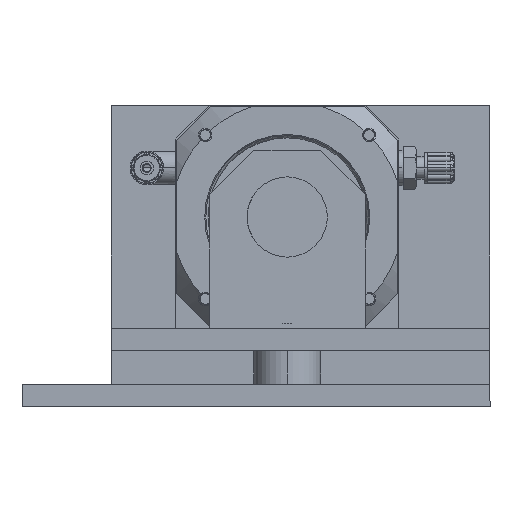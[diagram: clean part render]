
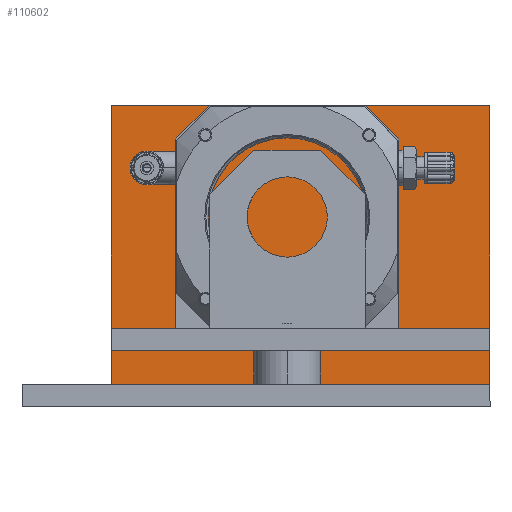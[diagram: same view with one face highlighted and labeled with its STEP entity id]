
A CAD part, front view. The second image highlights one B-rep face of the part: STEP entity #110602.
In plain terms, the highlighted planar face has unit normal (0, -1, 0).
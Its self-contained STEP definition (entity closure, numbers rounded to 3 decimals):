
#393 = CARTESIAN_POINT ( 'NONE',  ( 170., 0., 0. ) ) ;
#1163 = ORIENTED_EDGE ( 'NONE', *, *, #147791, .F. ) ;
#1275 = EDGE_CURVE ( 'NONE', #5820, #96918, #139214, .T. ) ;
#5820 = VERTEX_POINT ( 'NONE', #117706 ) ;
#30069 = CARTESIAN_POINT ( 'NONE',  ( 0., 0., 0. ) ) ;
#32837 = CARTESIAN_POINT ( 'NONE',  ( 0., 0., 0. ) ) ;
#33646 = VERTEX_POINT ( 'NONE', #90292 ) ;
#35562 = ORIENTED_EDGE ( 'NONE', *, *, #47275, .F. ) ;
#37365 = DIRECTION ( 'NONE',  ( 0., 0., -1. ) ) ;
#45175 = DIRECTION ( 'NONE',  ( 0., 1., 0. ) ) ;
#46190 = DIRECTION ( 'NONE',  ( 0., 0., 1. ) ) ;
#47275 = EDGE_CURVE ( 'NONE', #96918, #82816, #105684, .T. ) ;
#51040 = EDGE_LOOP ( 'NONE', ( #1163, #114909, #35562, #143434 ) ) ;
#56161 = EDGE_CURVE ( 'NONE', #82816, #33646, #109664, .T. ) ;
#81420 = CARTESIAN_POINT ( 'NONE',  ( 170., 0., 135. ) ) ;
#82816 = VERTEX_POINT ( 'NONE', #393 ) ;
#86848 = VECTOR ( 'NONE', #96386, 1000. ) ;
#90292 = CARTESIAN_POINT ( 'NONE',  ( 0., 0., 0. ) ) ;
#96386 = DIRECTION ( 'NONE',  ( -1., 0., 0. ) ) ;
#96918 = VERTEX_POINT ( 'NONE', #81420 ) ;
#97557 = PLANE ( 'NONE',  #154966 ) ;
#100144 = DIRECTION ( 'NONE',  ( 0., 0., 1. ) ) ;
#103342 = VECTOR ( 'NONE', #37365, 1000. ) ;
#105684 = LINE ( 'NONE', #134082, #103342 ) ;
#108802 = CARTESIAN_POINT ( 'NONE',  ( 0., 0., 0. ) ) ;
#109664 = LINE ( 'NONE', #108802, #86848 ) ;
#110602 = ADVANCED_FACE ( 'NONE', ( #140928 ), #97557, .F. ) ;
#112559 = CARTESIAN_POINT ( 'NONE',  ( 0., 0., 135. ) ) ;
#114440 = LINE ( 'NONE', #32837, #151203 ) ;
#114909 = ORIENTED_EDGE ( 'NONE', *, *, #56161, .F. ) ;
#117706 = CARTESIAN_POINT ( 'NONE',  ( 0., 0., 135. ) ) ;
#134082 = CARTESIAN_POINT ( 'NONE',  ( 170., 0., 0. ) ) ;
#139214 = LINE ( 'NONE', #112559, #161371 ) ;
#140928 = FACE_OUTER_BOUND ( 'NONE', #51040, .T. ) ;
#143434 = ORIENTED_EDGE ( 'NONE', *, *, #1275, .F. ) ;
#147791 = EDGE_CURVE ( 'NONE', #33646, #5820, #114440, .T. ) ;
#151203 = VECTOR ( 'NONE', #46190, 1000. ) ;
#154966 = AXIS2_PLACEMENT_3D ( 'NONE', #30069, #45175, #100144 ) ;
#156014 = DIRECTION ( 'NONE',  ( 1., 0., 0. ) ) ;
#161371 = VECTOR ( 'NONE', #156014, 1000. ) ;
